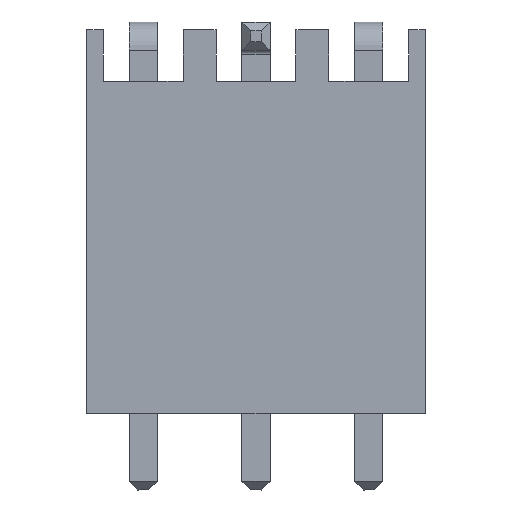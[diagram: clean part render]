
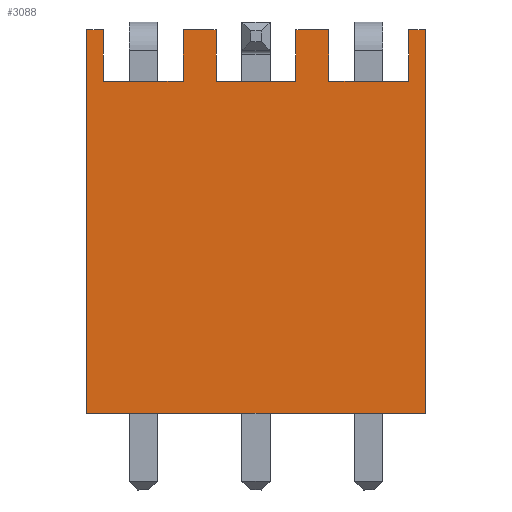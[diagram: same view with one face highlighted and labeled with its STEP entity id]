
A CAD part, front view. The second image highlights one B-rep face of the part: STEP entity #3088.
In plain terms, the highlighted planar face has unit normal (0, -1, 0).
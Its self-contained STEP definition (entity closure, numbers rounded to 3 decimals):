
#28 = PLANE ( 'NONE',  #2818 ) ;
#65 = CARTESIAN_POINT ( 'NONE',  ( 72.921, 51.65, 3.396 ) ) ;
#91 = FACE_OUTER_BOUND ( 'NONE', #1818, .T. ) ;
#101 = DIRECTION ( 'NONE',  ( 0., -1., 0. ) ) ;
#105 = DIRECTION ( 'NONE',  ( -1., 0., 0. ) ) ;
#225 = ORIENTED_EDGE ( 'NONE', *, *, #3194, .T. ) ;
#251 = ORIENTED_EDGE ( 'NONE', *, *, #501, .T. ) ;
#265 = CARTESIAN_POINT ( 'NONE',  ( 68.92, 51.65, 2.01 ) ) ;
#287 = LINE ( 'NONE', #3461, #2899 ) ;
#290 = ORIENTED_EDGE ( 'NONE', *, *, #3164, .F. ) ;
#293 = ORIENTED_EDGE ( 'NONE', *, *, #497, .T. ) ;
#329 = ORIENTED_EDGE ( 'NONE', *, *, #521, .F. ) ;
#343 = LINE ( 'NONE', #265, #2897 ) ;
#346 = ORIENTED_EDGE ( 'NONE', *, *, #3123, .F. ) ;
#360 = ORIENTED_EDGE ( 'NONE', *, *, #3041, .F. ) ;
#363 = ORIENTED_EDGE ( 'NONE', *, *, #507, .F. ) ;
#394 = ORIENTED_EDGE ( 'NONE', *, *, #3031, .F. ) ;
#398 = ORIENTED_EDGE ( 'NONE', *, *, #496, .T. ) ;
#440 = ORIENTED_EDGE ( 'NONE', *, *, #3066, .F. ) ;
#456 = DIRECTION ( 'NONE',  ( -1., 0., 0. ) ) ;
#496 = EDGE_CURVE ( 'NONE', #1891, #1963, #343, .T. ) ;
#497 = EDGE_CURVE ( 'NONE', #1956, #1978, #287, .T. ) ;
#501 = EDGE_CURVE ( 'NONE', #1999, #1908, #3480, .T. ) ;
#505 = EDGE_CURVE ( 'NONE', #1956, #1849, #3405, .T. ) ;
#507 = EDGE_CURVE ( 'NONE', #2000, #1952, #3590, .T. ) ;
#521 = EDGE_CURVE ( 'NONE', #1933, #1978, #3810, .T. ) ;
#522 = EDGE_CURVE ( 'NONE', #1869, #2000, #3729, .T. ) ;
#526 = EDGE_CURVE ( 'NONE', #1891, #1975, #4039, .T. ) ;
#542 = EDGE_CURVE ( 'NONE', #1953, #1952, #3675, .T. ) ;
#582 = ORIENTED_EDGE ( 'NONE', *, *, #505, .F. ) ;
#606 = ORIENTED_EDGE ( 'NONE', *, *, #3044, .T. ) ;
#743 = ORIENTED_EDGE ( 'NONE', *, *, #542, .T. ) ;
#830 = ORIENTED_EDGE ( 'NONE', *, *, #522, .F. ) ;
#849 = ORIENTED_EDGE ( 'NONE', *, *, #526, .F. ) ;
#1173 = DIRECTION ( 'NONE',  ( 0., 0., 1. ) ) ;
#1175 = CARTESIAN_POINT ( 'NONE',  ( 69.82, 51.65, 2.595 ) ) ;
#1379 = VECTOR ( 'NONE', #2060, 1000. ) ;
#1464 = VECTOR ( 'NONE', #1173, 1000. ) ;
#1475 = VECTOR ( 'NONE', #2404, 1000. ) ;
#1818 = EDGE_LOOP ( 'NONE', ( #582, #293, #329, #606, #849, #398, #440, #360, #346, #743, #363, #830, #394, #251, #290, #225 ) ) ;
#1849 = VERTEX_POINT ( 'NONE', #3908 ) ;
#1869 = VERTEX_POINT ( 'NONE', #3668 ) ;
#1877 = VERTEX_POINT ( 'NONE', #3922 ) ;
#1891 = VERTEX_POINT ( 'NONE', #3732 ) ;
#1906 = VERTEX_POINT ( 'NONE', #3425 ) ;
#1908 = VERTEX_POINT ( 'NONE', #3794 ) ;
#1933 = VERTEX_POINT ( 'NONE', #3693 ) ;
#1952 = VERTEX_POINT ( 'NONE', #3406 ) ;
#1953 = VERTEX_POINT ( 'NONE', #3949 ) ;
#1956 = VERTEX_POINT ( 'NONE', #3689 ) ;
#1963 = VERTEX_POINT ( 'NONE', #3369 ) ;
#1975 = VERTEX_POINT ( 'NONE', #3548 ) ;
#1977 = VERTEX_POINT ( 'NONE', #3374 ) ;
#1978 = VERTEX_POINT ( 'NONE', #3426 ) ;
#1999 = VERTEX_POINT ( 'NONE', #3995 ) ;
#2000 = VERTEX_POINT ( 'NONE', #3911 ) ;
#2058 = LINE ( 'NONE', #2106, #1379 ) ;
#2060 = DIRECTION ( 'NONE',  ( -1., 0., 0. ) ) ;
#2103 = LINE ( 'NONE', #2403, #1475 ) ;
#2106 = CARTESIAN_POINT ( 'NONE',  ( 68.92, 51.65, 3.18 ) ) ;
#2403 = CARTESIAN_POINT ( 'NONE',  ( 65.48, 51.65, 2.595 ) ) ;
#2404 = DIRECTION ( 'NONE',  ( 0., 0., -1. ) ) ;
#2662 = VECTOR ( 'NONE', #3814, 1000. ) ;
#2684 = VECTOR ( 'NONE', #4052, 1000. ) ;
#2774 = VECTOR ( 'NONE', #3407, 1000. ) ;
#2777 = VECTOR ( 'NONE', #4015, 1000. ) ;
#2810 = VECTOR ( 'NONE', #3501, 1000. ) ;
#2818 = AXIS2_PLACEMENT_3D ( 'NONE', #65, #101, #105 ) ;
#2847 = VECTOR ( 'NONE', #3579, 1000. ) ;
#2857 = VECTOR ( 'NONE', #3948, 1000. ) ;
#2858 = VECTOR ( 'NONE', #3749, 1000. ) ;
#2871 = VECTOR ( 'NONE', #3735, 1000. ) ;
#2872 = VECTOR ( 'NONE', #3921, 1000. ) ;
#2897 = VECTOR ( 'NONE', #456, 1000. ) ;
#2899 = VECTOR ( 'NONE', #3790, 1000. ) ;
#2907 = VECTOR ( 'NONE', #3594, 1000. ) ;
#3031 = EDGE_CURVE ( 'NONE', #1999, #1869, #4035, .T. ) ;
#3041 = EDGE_CURVE ( 'NONE', #1977, #1877, #3495, .T. ) ;
#3044 = EDGE_CURVE ( 'NONE', #1933, #1975, #3526, .T. ) ;
#3066 = EDGE_CURVE ( 'NONE', #1877, #1963, #3774, .T. ) ;
#3088 = ADVANCED_FACE ( 'NONE', ( #91 ), #28, .T. ) ;
#3123 = EDGE_CURVE ( 'NONE', #1953, #1977, #3247, .T. ) ;
#3164 = EDGE_CURVE ( 'NONE', #1906, #1908, #2103, .T. ) ;
#3194 = EDGE_CURVE ( 'NONE', #1906, #1849, #2058, .T. ) ;
#3247 = LINE ( 'NONE', #1175, #1464 ) ;
#3367 = CARTESIAN_POINT ( 'NONE',  ( 72.36, 51.65, 2.595 ) ) ;
#3369 = CARTESIAN_POINT ( 'NONE',  ( 70.56, 51.65, 2.01 ) ) ;
#3374 = CARTESIAN_POINT ( 'NONE',  ( 69.82, 51.65, 3.18 ) ) ;
#3405 = LINE ( 'NONE', #3748, #2857 ) ;
#3406 = CARTESIAN_POINT ( 'NONE',  ( 68.02, 51.65, 2.01 ) ) ;
#3407 = DIRECTION ( 'NONE',  ( 1., 0., 0. ) ) ;
#3425 = CARTESIAN_POINT ( 'NONE',  ( 65.48, 51.65, 3.18 ) ) ;
#3426 = CARTESIAN_POINT ( 'NONE',  ( 72.73, 51.65, -5.46 ) ) ;
#3461 = CARTESIAN_POINT ( 'NONE',  ( 68.92, 51.65, -5.46 ) ) ;
#3480 = LINE ( 'NONE', #3610, #2907 ) ;
#3495 = LINE ( 'NONE', #3773, #2774 ) ;
#3501 = DIRECTION ( 'NONE',  ( 0., 0., 1. ) ) ;
#3513 = CARTESIAN_POINT ( 'NONE',  ( 67.28, 51.65, 2.595 ) ) ;
#3526 = LINE ( 'NONE', #3957, #2662 ) ;
#3543 = CARTESIAN_POINT ( 'NONE',  ( 67.65, 51.65, 3.18 ) ) ;
#3548 = CARTESIAN_POINT ( 'NONE',  ( 72.36, 51.65, 3.18 ) ) ;
#3579 = DIRECTION ( 'NONE',  ( -1., 0., 0. ) ) ;
#3590 = LINE ( 'NONE', #3742, #2858 ) ;
#3594 = DIRECTION ( 'NONE',  ( -1., 0., 0. ) ) ;
#3610 = CARTESIAN_POINT ( 'NONE',  ( 68.92, 51.65, 2.01 ) ) ;
#3668 = CARTESIAN_POINT ( 'NONE',  ( 67.28, 51.65, 3.18 ) ) ;
#3675 = LINE ( 'NONE', #3726, #2847 ) ;
#3689 = CARTESIAN_POINT ( 'NONE',  ( 65.11, 51.65, -5.46 ) ) ;
#3693 = CARTESIAN_POINT ( 'NONE',  ( 72.73, 51.65, 3.18 ) ) ;
#3726 = CARTESIAN_POINT ( 'NONE',  ( 68.92, 51.65, 2.01 ) ) ;
#3729 = LINE ( 'NONE', #3543, #2872 ) ;
#3732 = CARTESIAN_POINT ( 'NONE',  ( 72.36, 51.65, 2.01 ) ) ;
#3735 = DIRECTION ( 'NONE',  ( 0., 0., -1. ) ) ;
#3742 = CARTESIAN_POINT ( 'NONE',  ( 68.02, 51.65, 2.595 ) ) ;
#3748 = CARTESIAN_POINT ( 'NONE',  ( 65.11, 51.65, -1.14 ) ) ;
#3749 = DIRECTION ( 'NONE',  ( 0., 0., -1. ) ) ;
#3773 = CARTESIAN_POINT ( 'NONE',  ( 70.19, 51.65, 3.18 ) ) ;
#3774 = LINE ( 'NONE', #4030, #2684 ) ;
#3790 = DIRECTION ( 'NONE',  ( 1., 0., 0. ) ) ;
#3794 = CARTESIAN_POINT ( 'NONE',  ( 65.48, 51.65, 2.01 ) ) ;
#3810 = LINE ( 'NONE', #3956, #2871 ) ;
#3814 = DIRECTION ( 'NONE',  ( -1., 0., 0. ) ) ;
#3908 = CARTESIAN_POINT ( 'NONE',  ( 65.11, 51.65, 3.18 ) ) ;
#3911 = CARTESIAN_POINT ( 'NONE',  ( 68.02, 51.65, 3.18 ) ) ;
#3921 = DIRECTION ( 'NONE',  ( 1., 0., 0. ) ) ;
#3922 = CARTESIAN_POINT ( 'NONE',  ( 70.56, 51.65, 3.18 ) ) ;
#3948 = DIRECTION ( 'NONE',  ( 0., 0., 1. ) ) ;
#3949 = CARTESIAN_POINT ( 'NONE',  ( 69.82, 51.65, 2.01 ) ) ;
#3956 = CARTESIAN_POINT ( 'NONE',  ( 72.73, 51.65, -1.14 ) ) ;
#3957 = CARTESIAN_POINT ( 'NONE',  ( 68.92, 51.65, 3.18 ) ) ;
#3995 = CARTESIAN_POINT ( 'NONE',  ( 67.28, 51.65, 2.01 ) ) ;
#4015 = DIRECTION ( 'NONE',  ( 0., 0., 1. ) ) ;
#4030 = CARTESIAN_POINT ( 'NONE',  ( 70.56, 51.65, 2.595 ) ) ;
#4035 = LINE ( 'NONE', #3513, #2810 ) ;
#4039 = LINE ( 'NONE', #3367, #2777 ) ;
#4052 = DIRECTION ( 'NONE',  ( 0., 0., -1. ) ) ;
